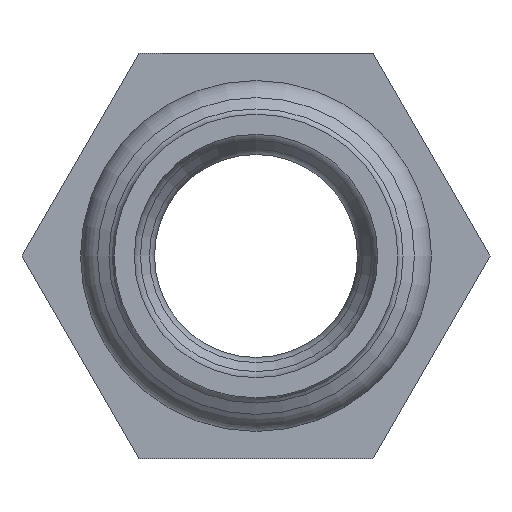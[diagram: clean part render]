
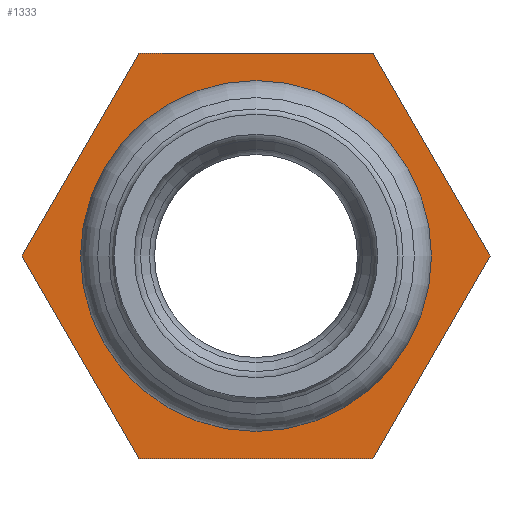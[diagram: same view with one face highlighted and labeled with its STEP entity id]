
A CAD part, left-side view. The second image highlights one B-rep face of the part: STEP entity #1333.
In plain terms, the highlighted planar face has unit normal (-1, 0, 0).
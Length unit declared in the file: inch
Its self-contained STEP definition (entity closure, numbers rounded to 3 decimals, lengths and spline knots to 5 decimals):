
#49=FACE_BOUND('',#206,.T.);
#55=PLANE('',#1568);
#144=FACE_OUTER_BOUND('',#205,.T.);
#205=EDGE_LOOP('',(#1174,#1175,#1176,#1177,#1178,#1179));
#206=EDGE_LOOP('',(#1180));
#240=LINE('',#2464,#283);
#241=LINE('',#2466,#284);
#242=LINE('',#2468,#285);
#243=LINE('',#2470,#286);
#244=LINE('',#2472,#287);
#245=LINE('',#2473,#288);
#283=VECTOR('',#2032,0.3937);
#284=VECTOR('',#2033,0.3937);
#285=VECTOR('',#2034,0.3937);
#286=VECTOR('',#2035,0.3937);
#287=VECTOR('',#2036,0.3937);
#288=VECTOR('',#2037,0.3937);
#456=CIRCLE('',#1563,0.79);
#594=VERTEX_POINT('',#2452);
#597=VERTEX_POINT('',#2462);
#598=VERTEX_POINT('',#2463);
#599=VERTEX_POINT('',#2465);
#600=VERTEX_POINT('',#2467);
#601=VERTEX_POINT('',#2469);
#602=VERTEX_POINT('',#2471);
#788=EDGE_CURVE('',#594,#594,#456,.T.);
#792=EDGE_CURVE('',#597,#598,#240,.T.);
#793=EDGE_CURVE('',#598,#599,#241,.T.);
#794=EDGE_CURVE('',#599,#600,#242,.T.);
#795=EDGE_CURVE('',#600,#601,#243,.T.);
#796=EDGE_CURVE('',#601,#602,#244,.T.);
#797=EDGE_CURVE('',#602,#597,#245,.T.);
#1174=ORIENTED_EDGE('',*,*,#792,.T.);
#1175=ORIENTED_EDGE('',*,*,#793,.T.);
#1176=ORIENTED_EDGE('',*,*,#794,.T.);
#1177=ORIENTED_EDGE('',*,*,#795,.T.);
#1178=ORIENTED_EDGE('',*,*,#796,.T.);
#1179=ORIENTED_EDGE('',*,*,#797,.T.);
#1180=ORIENTED_EDGE('',*,*,#788,.T.);
#1333=ADVANCED_FACE('',(#144,#49),#55,.F.);
#1563=AXIS2_PLACEMENT_3D('',#2453,#2019,#2020);
#1568=AXIS2_PLACEMENT_3D('',#2461,#2030,#2031);
#2019=DIRECTION('center_axis',(1.,0.,0.));
#2020=DIRECTION('ref_axis',(0.,1.,0.));
#2030=DIRECTION('center_axis',(1.,0.,0.));
#2031=DIRECTION('ref_axis',(0.,0.,-1.));
#2032=DIRECTION('',(0.,-0.5,-0.866));
#2033=DIRECTION('',(0.,-1.,0.));
#2034=DIRECTION('',(0.,-0.5,0.866));
#2035=DIRECTION('',(0.,0.5,0.866));
#2036=DIRECTION('',(0.,1.,0.));
#2037=DIRECTION('',(0.,0.5,-0.866));
#2452=CARTESIAN_POINT('',(-0.375,-0.79,0.));
#2453=CARTESIAN_POINT('Origin',(-0.375,0.,0.));
#2461=CARTESIAN_POINT('Origin',(-0.375,0.,0.));
#2462=CARTESIAN_POINT('',(-0.375,1.2644,0.));
#2463=CARTESIAN_POINT('',(-0.375,0.6322,-1.095));
#2464=CARTESIAN_POINT('',(-0.375,1.2644,0.));
#2465=CARTESIAN_POINT('',(-0.375,-0.6322,-1.095));
#2466=CARTESIAN_POINT('',(-0.375,0.6322,-1.095));
#2467=CARTESIAN_POINT('',(-0.375,-1.2644,0.));
#2468=CARTESIAN_POINT('',(-0.375,-0.6322,-1.095));
#2469=CARTESIAN_POINT('',(-0.375,-0.6322,1.095));
#2470=CARTESIAN_POINT('',(-0.375,-1.2644,0.));
#2471=CARTESIAN_POINT('',(-0.375,0.6322,1.095));
#2472=CARTESIAN_POINT('',(-0.375,-0.6322,1.095));
#2473=CARTESIAN_POINT('',(-0.375,0.6322,1.095));
